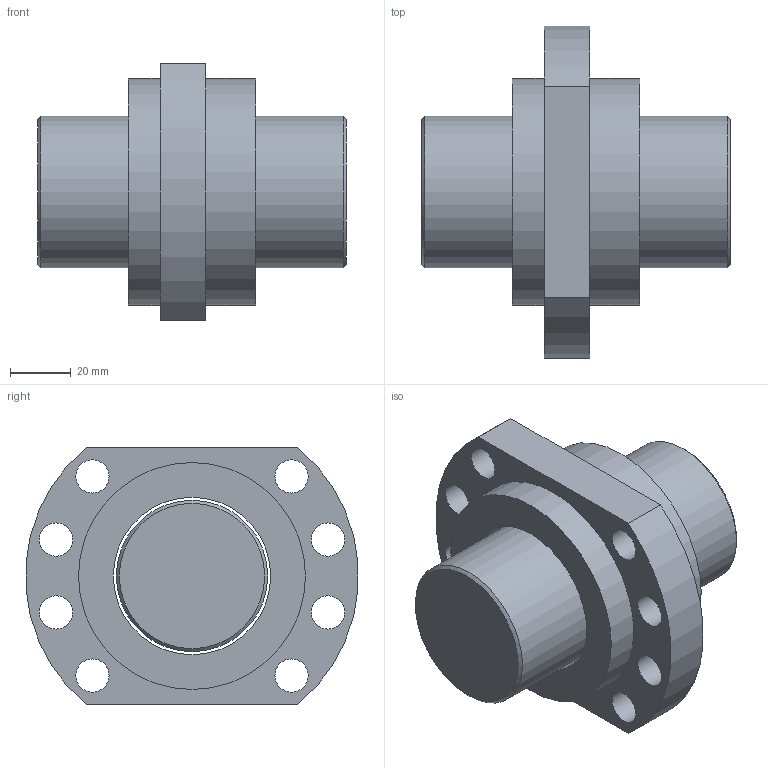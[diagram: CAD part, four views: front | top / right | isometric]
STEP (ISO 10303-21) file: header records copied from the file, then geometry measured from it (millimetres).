
FILE_DESCRIPTION(/* description */ (''),/* implementation_level */ '2;1');
FILE_NAME(/* name */ 'SFA5005-3.8.stp',/* time_stamp */ '2019-04-02T13:27:39+08:00',/* author */ (''),/* organization */ (''),/* preprocessor_version */ 'ST-DEVELOPER v14',/* originating_system */ 'SIEMENS PLM Software NX 8.0',/* authorisation */ '');
FILE_SCHEMA (('AP203_CONFIGURATION_CONTROLLED_3D_DESIGN_OF_MECHANICAL_PARTS_AND_ASSEMBLIES_MIM_LF { 1 0 10303 403 2 1 2}'));
Length unit declared in the file: millimetre
Products named in the file (1): 00251B18CDB0b5l8
Bounding box: 102 x 109.65 x 85 mm (x, y, z)
Volume: 343458.6 mm3; surface area: 52994 mm2
Topology: 2 solids, 2 shells, 24 faces, 55 edges, 37 vertices
Faces by surface type: cylinder 14, plane 8, cone 2
Full cylindrical faces by diameter (mm): 11 x8, 50 x1, 52 x1, 75 x2
Entity records: 726 total; most frequent: DIRECTION 118, CARTESIAN_POINT 97, ORIENTED_EDGE 76, EDGE_LOOP 58, AXIS2_PLACEMENT_3D 55, FACE_BOUND 52, EDGE_CURVE 38, VERTEX_POINT 34
